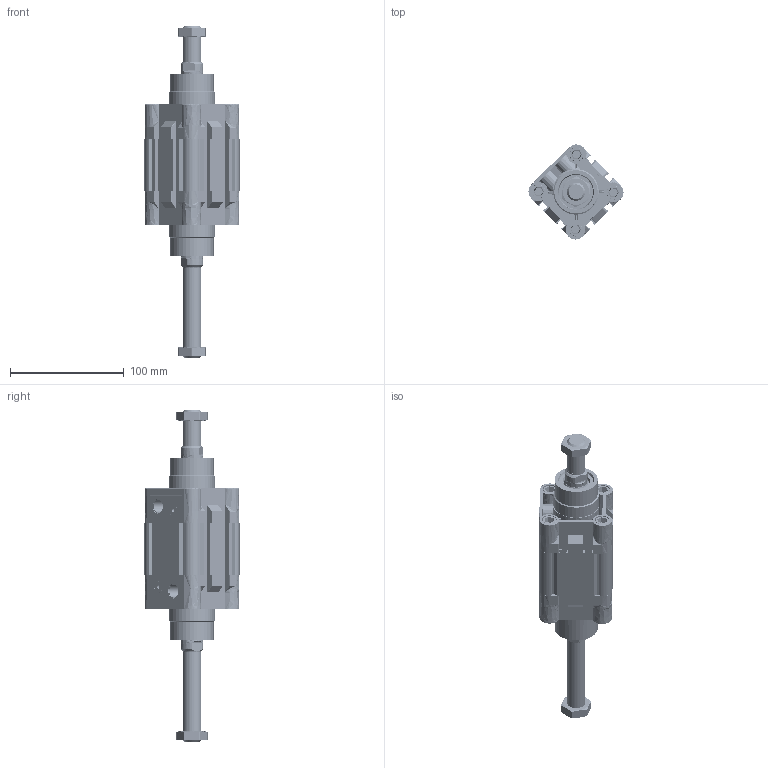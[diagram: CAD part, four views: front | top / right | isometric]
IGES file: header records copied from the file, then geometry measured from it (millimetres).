
Start section: SolidWorks IGES file using analytic representation for surfaces
Global section: file name: D:\ARICA 3D ÇÝZÝMLER\3D IGES\KDNC ÇÝFT MÝLLÝ STROK AYARLI\KDNC50 STROK AYARLI\KDNC50X0CIFTMILLI-STROK AYARLI-CYLINDER.IGS; native system: SolidWorks 2013; preprocessor: SolidWorks 2013; author: user; date: 140708.134946; units: millimetre
Bounding box: 83.57 x 83.57 x 292 mm (x, y, z)
Surface area: 199732.1 mm2 (no closed solid volume)
Topology: 0 solids, 0 shells, 1653 faces, 27089 edges, 27085 vertices
Faces by surface type: revolution 880, bspline 773
